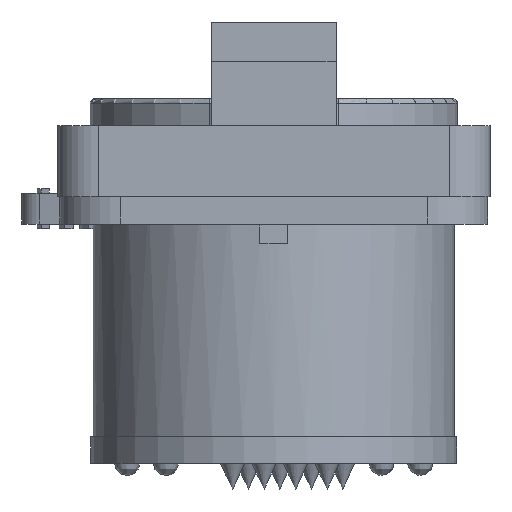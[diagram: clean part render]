
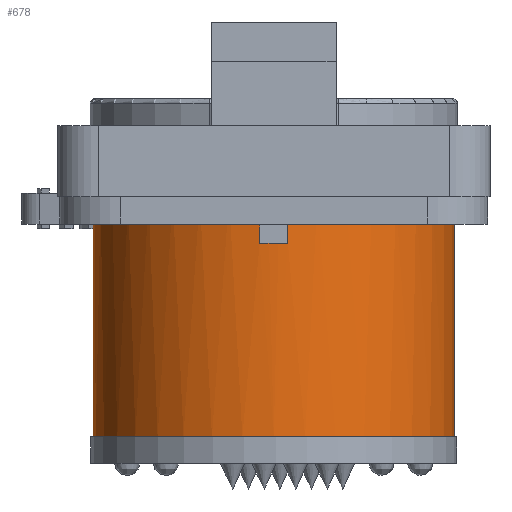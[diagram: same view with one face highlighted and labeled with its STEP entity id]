
A CAD part, front view. The second image highlights one B-rep face of the part: STEP entity #678.
In plain terms, the highlighted cylindrical face has radius 11.7 mm (diameter 23.4 mm), a full revolution.
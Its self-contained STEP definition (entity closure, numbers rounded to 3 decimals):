
#261=CYLINDRICAL_SURFACE('',#8397,11.7);
#392=FACE_BOUND('',#1894,.T.);
#393=FACE_BOUND('',#1895,.T.);
#678=ADVANCED_FACE('',(#392,#393),#261,.T.);
#1894=EDGE_LOOP('',(#3284,#3285,#3286,#3287));
#1895=EDGE_LOOP('',(#3288));
#2452=CIRCLE('',#8394,11.7);
#2453=CIRCLE('',#8395,11.7);
#2454=CIRCLE('',#8396,11.7);
#3284=ORIENTED_EDGE('',*,*,#5918,.F.);
#3285=ORIENTED_EDGE('',*,*,#5919,.T.);
#3286=ORIENTED_EDGE('',*,*,#5920,.F.);
#3287=ORIENTED_EDGE('',*,*,#5921,.T.);
#3288=ORIENTED_EDGE('',*,*,#5922,.T.);
#5078=VERTEX_POINT('',#12059);
#5079=VERTEX_POINT('',#12060);
#5080=VERTEX_POINT('',#12062);
#5081=VERTEX_POINT('',#12064);
#5082=VERTEX_POINT('',#12067);
#5918=EDGE_CURVE('',#5078,#5079,#2452,.T.);
#5919=EDGE_CURVE('',#5078,#5080,#6886,.T.);
#5920=EDGE_CURVE('',#5081,#5080,#2453,.T.);
#5921=EDGE_CURVE('',#5081,#5079,#6887,.T.);
#5922=EDGE_CURVE('',#5082,#5082,#2454,.T.);
#6886=LINE('',#12061,#7674);
#6887=LINE('',#12065,#7675);
#7674=VECTOR('',#9636,1.);
#7675=VECTOR('',#9639,1.);
#8394=AXIS2_PLACEMENT_3D('',#12058,#9634,#9635);
#8395=AXIS2_PLACEMENT_3D('',#12063,#9637,#9638);
#8396=AXIS2_PLACEMENT_3D('',#12066,#9640,#9641);
#8397=AXIS2_PLACEMENT_3D('',#12068,#9642,#9643);
#9634=DIRECTION('',(0.,0.,1.));
#9635=DIRECTION('',(1.,0.,0.));
#9636=DIRECTION('',(0.,0.,1.));
#9637=DIRECTION('',(0.,0.,1.));
#9638=DIRECTION('',(1.,0.,0.));
#9639=DIRECTION('',(0.,0.,-1.));
#9640=DIRECTION('',(0.,0.,1.));
#9641=DIRECTION('',(1.,0.,0.));
#9642=DIRECTION('',(0.,0.,-1.));
#9643=DIRECTION('',(1.,0.,0.));
#12058=CARTESIAN_POINT('',(0.,0.,12.54));
#12059=CARTESIAN_POINT('',(-0.915,-11.664,12.54));
#12060=CARTESIAN_POINT('',(0.915,-11.664,12.54));
#12061=CARTESIAN_POINT('',(-0.915,-11.664,15.5));
#12062=CARTESIAN_POINT('',(-0.915,-11.664,15.5));
#12063=CARTESIAN_POINT('',(0.,0.,15.5));
#12064=CARTESIAN_POINT('',(0.915,-11.664,15.5));
#12065=CARTESIAN_POINT('',(0.915,-11.664,15.5));
#12066=CARTESIAN_POINT('',(0.,0.,0.));
#12067=CARTESIAN_POINT('',(11.7,0.,0.));
#12068=CARTESIAN_POINT('',(0.,0.,15.5));
